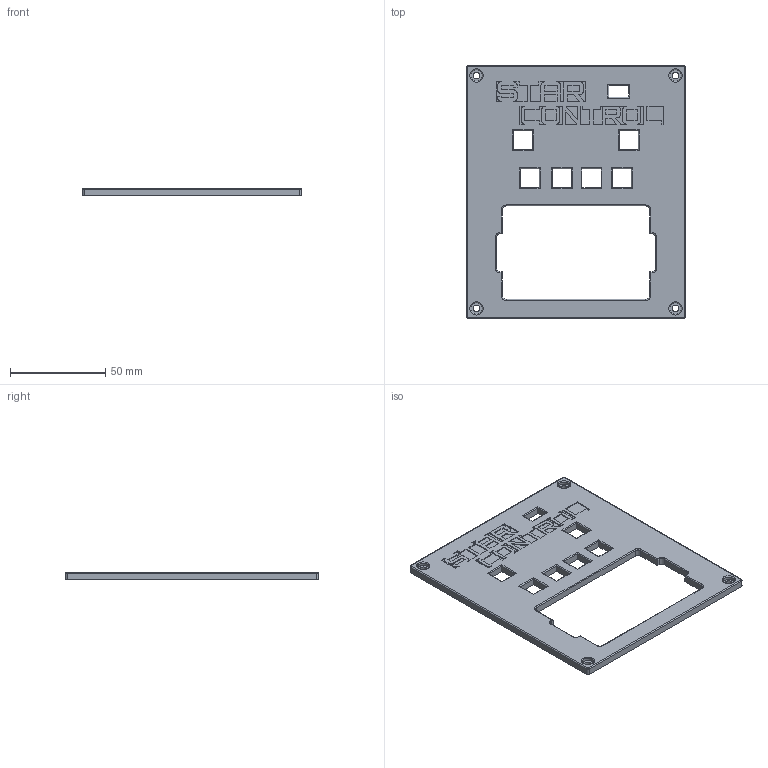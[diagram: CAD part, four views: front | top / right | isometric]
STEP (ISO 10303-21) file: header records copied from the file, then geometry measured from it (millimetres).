
FILE_DESCRIPTION(/* description */ ('STEP AP242 Edition 2','CAx-IF Rec.Pracs.---Representation and Presentation of Product Manufacturing Information (PMI)---4.0---2014-10-13','CAx-IF Rec.Pracs.---3D Tessellated Geometry---0.4---2014-09-14','2;1','CAx-IF Rec.Pracs.---User Defined Attributes---1.5---2016-08-15'),/* implementation_level */ '2;1');
FILE_NAME(/* name */ 'Part Studio 1 - Part 6',/* time_stamp */ '2026-11-25T23:28:51Z',/* author */ (''),/* organization */ (''),/* preprocessor_version */ 'ST-DEVELOPER v20',/* originating_system */ 'ONSHAPE BY PTC INC, 1.224',/* authorisation */ ' ');
FILE_SCHEMA (('AP242_MANAGED_MODEL_BASED_3D_ENGINEERING_MIM_LF { 1 0 10303 442 3 1 4 }'));
Length unit declared in the file: metre
Products named in the file (1): Part 6
Bounding box: 115 x 132.85 x 4 mm (x, y, z)
Volume: 41993.2 mm3; surface area: 25802.9 mm2
Topology: 1 solids, 1 shells, 401 faces, 1056 edges, 684 vertices
Faces by surface type: plane 203, cylinder 178, torus 16, bspline 4
Full cylindrical faces by diameter (mm): 3.5 x4, 6 x4
Entity records: 12396 total; most frequent: CARTESIAN_POINT 2174, DIRECTION 2172, ORIENTED_EDGE 2088, EDGE_CURVE 1044, AXIS2_PLACEMENT_3D 738, LINE 696, VECTOR 696, VERTEX_POINT 684
